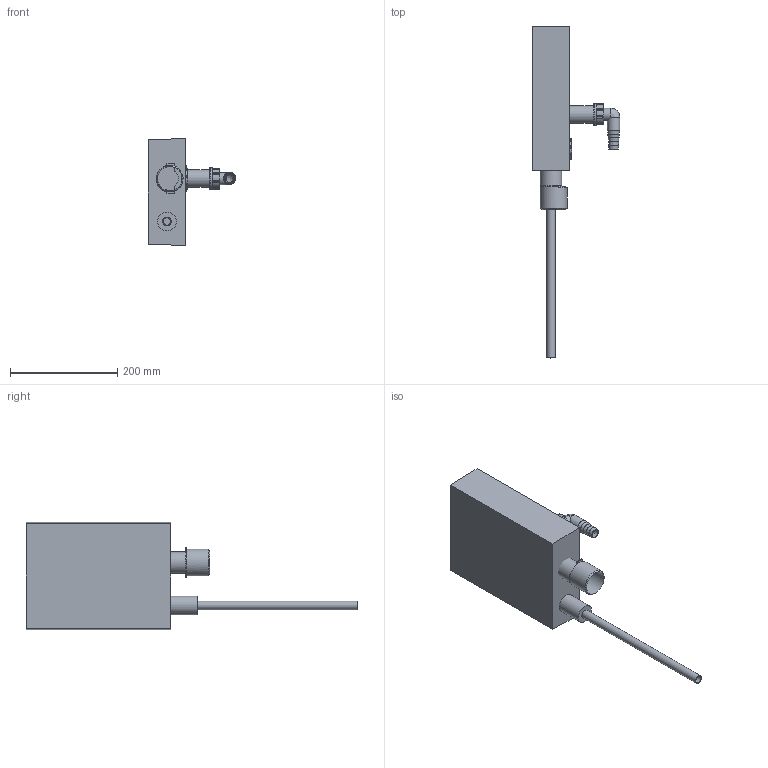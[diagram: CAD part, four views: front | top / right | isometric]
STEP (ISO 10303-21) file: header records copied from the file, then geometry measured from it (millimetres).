
FILE_DESCRIPTION(/* description */ (''),/* implementation_level */ '2;1');
FILE_NAME(/* name */ '\\LG50011\SANHA_Legnica\Engineering\Public\PROJEKTY\SANHA-BOX_Support_BiR\002-Rysunki_Boxów\25-WM-M\325WMM16.stp',/* time_stamp */ '2018-11-05T14:33:46+01:00',/* author */ ('gomulka'),/* organization */ (''),/* preprocessor_version */ 'ST-DEVELOPER v16.13',/* originating_system */ 'Autodesk Inventor 2018',/* authorisation */ '');
FILE_SCHEMA (('AUTOMOTIVE_DESIGN { 1 0 10303 214 3 1 1 }'));
Length unit declared in the file: millimetre
Products named in the file (8): 325WMM16; 325WMM16_1; Rura_16x2-krotka; króciec-mimośr; króciec-gwintowany; nakrętka; króciec; nakrętka_2
Assembly tree (7 placements, depth 2):
  325WMM16
    325WMM16_1
    Rura_16x2-krotka
    króciec-mimośr
    króciec-gwintowany
    nakrętka
    króciec
    nakrętka_2
Bounding box: 163.52 x 620.02 x 200 mm (x, y, z)
Volume: 3836773.1 mm3; surface area: 283256.5 mm2
Topology: 7 solids, 7 shells, 326 faces, 767 edges, 478 vertices
Faces by surface type: plane 247, cylinder 44, bspline 18, torus 10, cone 7
Full cylindrical faces by diameter (mm): 10.28 x1, 14 x1, 15 x1, 16 x2, 18.3 x2, 18.631 x1, 21 x1, 23 x2, 27 x2, 27.5 x1, 30 x2, 32.8 x1, 33 x1, 35 x1, 37.5 x2, 38.5 x1, 40 x2, 46 x1, 50 x1, 53 x1, 63 x1
Entity records: 9450 total; most frequent: CARTESIAN_POINT 1827, DIRECTION 1520, ORIENTED_EDGE 1458, EDGE_CURVE 713, AXIS2_PLACEMENT_3D 522, LINE 476, VECTOR 476, VERTEX_POINT 469
